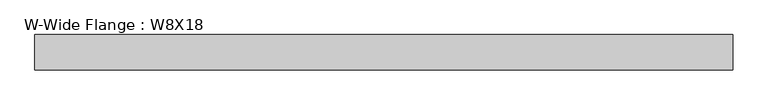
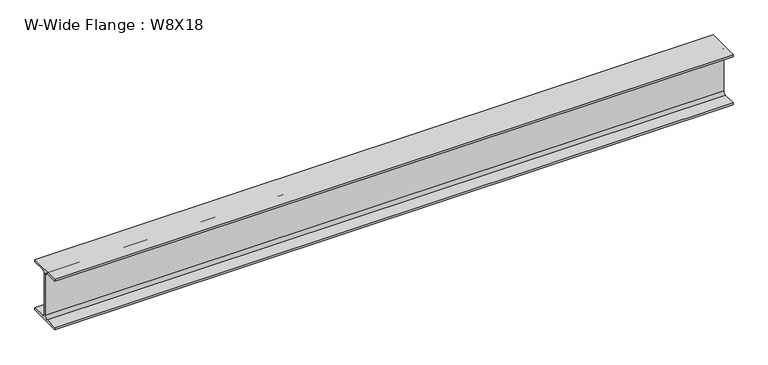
"""IFC4 building model written with IfcOpenShell, lengths in millimetres: beam geometry, W-Wide Flange : W8X18."""

from ifc_helpers import new_model, si_unit, point, frame, frame_2d, origin, place, context, project, spatial, polyline, circle_curve, trimmed, segment, composite_curve, outline, extrude, source, transform, mapped, element, save


def w_wide_flange_w8x18_17d6e70c(model_context):
    return source(origin(), model_context, "Body", "SweptSolid", [
        extrude(outline(composite_curve([segment(polyline([(66.675, -94.996), (66.675, -103.378), (-66.675, -103.378), (-66.675, -94.996), (-15.1765, -94.996)]), True, "CONTINUOUS"), segment(trimmed(circle_curve(frame_2d((-15.1765, -82.7405)), 12.2555), [point((-15.1765, -94.996))], [point((-2.921, -82.7405))], True, "CARTESIAN"), True, "CONTINUOUS"), segment(polyline([(-2.921, -82.7405), (-2.921, 82.7405)]), True, "CONTINUOUS"), segment(trimmed(circle_curve(frame_2d((-15.1765, 82.7405)), 12.2555), [point((-2.921, 82.7405))], [point((-15.1765, 94.996))], True, "CARTESIAN"), True, "CONTINUOUS"), segment(polyline([(-15.1765, 94.996), (-66.675, 94.996), (-66.675, 103.378), (66.675, 103.378), (66.675, 94.996), (15.1765, 94.996)]), True, "CONTINUOUS"), segment(trimmed(circle_curve(frame_2d((15.1765, 82.7405)), 12.2555), [point((15.1765, 94.996))], [point((2.921, 82.7405))], True, "CARTESIAN"), True, "CONTINUOUS"), segment(polyline([(2.921, 82.7405), (2.921, -82.7405)]), True, "CONTINUOUS"), segment(trimmed(circle_curve(frame_2d((15.1765, -82.7405)), 12.2555), [point((2.921, -82.7405))], [point((15.1765, -94.996))], True, "CARTESIAN"), True, "CONTINUOUS"), segment(polyline([(15.1765, -94.996), (66.675, -94.996)]), True, "CONTINUOUS")], self_intersect=False)), frame((-1321.0747268, 0.0, 0.0), z_axis=(1.0, 0.0, 0.0), x_axis=(0.0, 1.0, 0.0)), (0.0, 0.0, 1.0), 2633.9372268),
    ])


if __name__ == "__main__":
    model = new_model("IFC4")
    model_context = context("Model", 3, world=origin())
    ifc_project = project(units=[si_unit("LENGTHUNIT", "METRE", prefix="MILLI")], contexts=[model_context])
    site = spatial("IfcSite", under=ifc_project)
    building = spatial("IfcBuilding", under=site)
    placement = place(None, origin())
    w_wide_flange_w8x18_shape = w_wide_flange_w8x18_17d6e70c(model_context)
    element("IfcBeam", 1, ObjectType="W-Wide Flange : W8X18", at=placement, inside=building, context=model_context, shape_type="MappedRepresentation", body=[
        mapped(w_wide_flange_w8x18_shape, transform((0.0, 0.0, 0.0), x_axis=(1.0, 0.0, 0.0), y_axis=(0.0, 1.0, 0.0), z_axis=(0.0, 0.0, 1.0))),
    ])
    save(model, "model.ifc")
